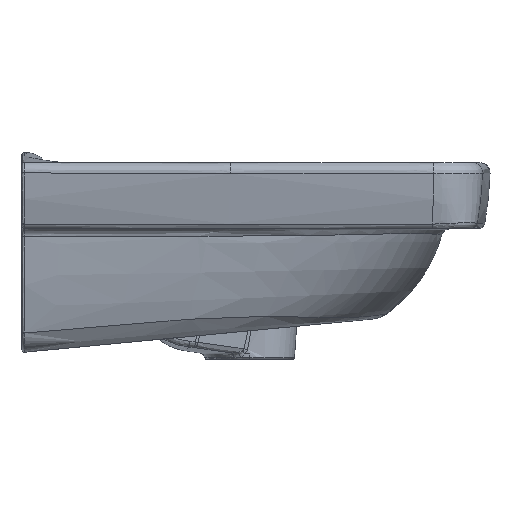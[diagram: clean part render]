
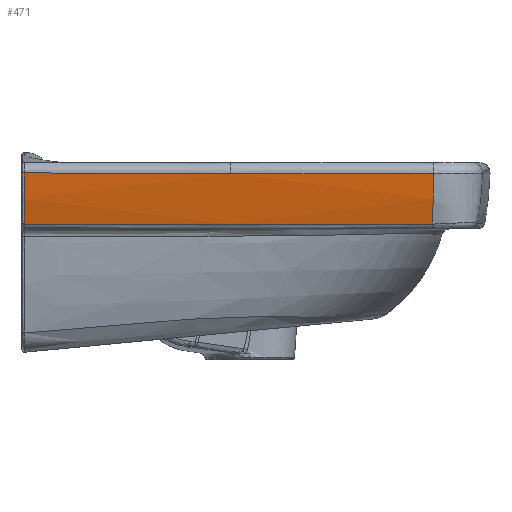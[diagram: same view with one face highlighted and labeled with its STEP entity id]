
A CAD part, left-side view. The second image highlights one B-rep face of the part: STEP entity #471.
In plain terms, the highlighted free-form (B-spline) face has degree [3, 3] with [9, 7] control points.
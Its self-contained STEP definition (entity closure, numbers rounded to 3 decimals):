
#471=ADVANCED_FACE('',(#794),#677,.T.);
#677=B_SPLINE_SURFACE_WITH_KNOTS('',3,3,((#24232,#24233,#24234,#24235,#24236,
#24237,#24238),(#24239,#24240,#24241,#24242,#24243,#24244,#24245),(#24246,
#24247,#24248,#24249,#24250,#24251,#24252),(#24253,#24254,#24255,#24256,
#24257,#24258,#24259),(#24260,#24261,#24262,#24263,#24264,#24265,#24266),
(#24267,#24268,#24269,#24270,#24271,#24272,#24273),(#24274,#24275,#24276,
#24277,#24278,#24279,#24280),(#24281,#24282,#24283,#24284,#24285,#24286,
#24287),(#24288,#24289,#24290,#24291,#24292,#24293,#24294)),
 .UNSPECIFIED.,.F.,.F.,.F.,(4,2,1,2,4),(4,1,1,1,4),(0.,0.386,
0.856,0.937,1.),(0.,0.239,0.295,
0.301,1.),.UNSPECIFIED.);
#794=FACE_OUTER_BOUND('',#1060,.T.);
#1060=EDGE_LOOP('',(#2143,#2144,#2145,#2146,#2147));
#1432=B_SPLINE_CURVE_WITH_KNOTS('',3,(#23829,#23830,#23831,#23832,#23833,
#23834,#23835,#23836,#23837,#23838),.UNSPECIFIED.,.F.,.F.,(4,1,1,1,1,1,
1,4),(0.,0.115,0.277,0.44,0.602,
0.765,0.927,1.),.UNSPECIFIED.);
#1435=B_SPLINE_CURVE_WITH_KNOTS('',3,(#24205,#24206,#24207,#24208),
 .UNSPECIFIED.,.F.,.F.,(4,4),(0.,1.),.UNSPECIFIED.);
#1436=B_SPLINE_CURVE_WITH_KNOTS('',3,(#24211,#24212,#24213,#24214),
 .UNSPECIFIED.,.F.,.F.,(4,4),(0.,1.),.UNSPECIFIED.);
#1437=B_SPLINE_CURVE_WITH_KNOTS('',3,(#24215,#24216,#24217,#24218),
 .UNSPECIFIED.,.F.,.F.,(4,4),(0.,1.),.UNSPECIFIED.);
#1438=B_SPLINE_CURVE_WITH_KNOTS('',3,(#24220,#24221,#24222,#24223,#24224,
#24225,#24226,#24227,#24228,#24229,#24230,#24231),.UNSPECIFIED.,.F.,.F.,
(4,2,2,2,2,4),(0.,0.125,0.25,0.5,0.75,1.),.UNSPECIFIED.);
#2143=ORIENTED_EDGE('',*,*,#3696,.T.);
#2144=ORIENTED_EDGE('',*,*,#3697,.T.);
#2145=ORIENTED_EDGE('',*,*,#3693,.F.);
#2146=ORIENTED_EDGE('',*,*,#3698,.T.);
#2147=ORIENTED_EDGE('',*,*,#3699,.T.);
#3219=VERTEX_POINT('',#23839);
#3220=VERTEX_POINT('',#23840);
#3221=VERTEX_POINT('',#24209);
#3222=VERTEX_POINT('',#24210);
#3223=VERTEX_POINT('',#24219);
#3693=EDGE_CURVE('',#3219,#3220,#1432,.T.);
#3696=EDGE_CURVE('',#3221,#3222,#1435,.T.);
#3697=EDGE_CURVE('',#3222,#3220,#1436,.T.);
#3698=EDGE_CURVE('',#3219,#3223,#1437,.T.);
#3699=EDGE_CURVE('',#3223,#3221,#1438,.T.);
#23829=CARTESIAN_POINT('',(-223.323,-325.419,-8.533));
#23830=CARTESIAN_POINT('',(-223.209,-325.391,-10.086));
#23831=CARTESIAN_POINT('',(-222.902,-325.323,-13.833));
#23832=CARTESIAN_POINT('',(-222.281,-325.213,-19.765));
#23833=CARTESIAN_POINT('',(-221.384,-325.087,-26.314));
#23834=CARTESIAN_POINT('',(-220.247,-324.955,-32.827));
#23835=CARTESIAN_POINT('',(-218.835,-324.817,-39.285));
#23836=CARTESIAN_POINT('',(-217.43,-324.698,-44.49));
#23837=CARTESIAN_POINT('',(-216.486,-324.626,-47.533));
#23838=CARTESIAN_POINT('',(-216.187,-324.603,-48.469));
#23839=CARTESIAN_POINT('',(-223.323,-325.419,-8.533));
#23840=CARTESIAN_POINT('',(-216.187,-324.603,-48.469));
#24205=CARTESIAN_POINT('',(-222.479,-1.75,-8.029));
#24206=CARTESIAN_POINT('',(-221.493,-1.751,-21.733));
#24207=CARTESIAN_POINT('',(-219.482,-1.751,-35.376));
#24208=CARTESIAN_POINT('',(-215.287,-1.753,-48.469));
#24209=CARTESIAN_POINT('',(-222.479,-1.75,-8.029));
#24210=CARTESIAN_POINT('',(-215.287,-1.753,-48.469));
#24211=CARTESIAN_POINT('',(-215.287,-1.753,-48.469));
#24212=CARTESIAN_POINT('',(-218.261,-109.345,-48.47));
#24213=CARTESIAN_POINT('',(-218.566,-216.996,-48.469));
#24214=CARTESIAN_POINT('',(-216.186,-324.603,-48.469));
#24215=CARTESIAN_POINT('',(-223.322,-325.419,-8.533));
#24216=CARTESIAN_POINT('',(-224.511,-271.937,-8.53));
#24217=CARTESIAN_POINT('',(-225.037,-218.45,-8.533));
#24218=CARTESIAN_POINT('',(-224.903,-164.956,-8.532));
#24219=CARTESIAN_POINT('',(-224.903,-164.956,-8.533));
#24220=CARTESIAN_POINT('',(-224.903,-164.956,-8.534));
#24221=CARTESIAN_POINT('',(-224.886,-158.154,-8.532));
#24222=CARTESIAN_POINT('',(-224.852,-151.353,-8.616));
#24223=CARTESIAN_POINT('',(-224.769,-137.75,-8.695));
#24224=CARTESIAN_POINT('',(-224.718,-130.949,-8.726));
#24225=CARTESIAN_POINT('',(-224.533,-110.545,-8.796));
#24226=CARTESIAN_POINT('',(-224.369,-96.943,-8.817));
#24227=CARTESIAN_POINT('',(-223.956,-69.74,-8.863));
#24228=CARTESIAN_POINT('',(-223.704,-56.138,-8.914));
#24229=CARTESIAN_POINT('',(-223.146,-28.941,-8.607));
#24230=CARTESIAN_POINT('',(-222.838,-15.346,-8.256));
#24231=CARTESIAN_POINT('',(-222.479,-1.75,-8.029));
#24232=CARTESIAN_POINT('',(-216.852,168.912,35.798));
#24233=CARTESIAN_POINT('',(-219.011,124.279,35.798));
#24234=CARTESIAN_POINT('',(-221.353,69.148,35.798));
#24235=CARTESIAN_POINT('',(-223.091,12.837,35.798));
#24236=CARTESIAN_POINT('',(-227.1,-129.386,35.798));
#24237=CARTESIAN_POINT('',(-226.803,-261.214,35.798));
#24238=CARTESIAN_POINT('',(-222.569,-391.754,35.798));
#24239=CARTESIAN_POINT('',(-216.852,168.919,23.089));
#24240=CARTESIAN_POINT('',(-219.011,124.285,23.089));
#24241=CARTESIAN_POINT('',(-221.353,69.153,23.089));
#24242=CARTESIAN_POINT('',(-223.091,12.84,23.089));
#24243=CARTESIAN_POINT('',(-227.1,-129.386,23.089));
#24244=CARTESIAN_POINT('',(-226.803,-261.214,23.089));
#24245=CARTESIAN_POINT('',(-222.569,-391.754,23.089));
#24246=CARTESIAN_POINT('',(-216.852,168.927,10.381));
#24247=CARTESIAN_POINT('',(-219.011,124.291,10.381));
#24248=CARTESIAN_POINT('',(-221.353,69.157,10.381));
#24249=CARTESIAN_POINT('',(-223.091,12.843,10.381));
#24250=CARTESIAN_POINT('',(-227.1,-129.386,10.381));
#24251=CARTESIAN_POINT('',(-226.803,-261.214,10.381));
#24252=CARTESIAN_POINT('',(-222.569,-391.754,10.381));
#24253=CARTESIAN_POINT('',(-215.417,168.991,-16.979));
#24254=CARTESIAN_POINT('',(-217.576,124.332,-16.979));
#24255=CARTESIAN_POINT('',(-219.918,69.176,-16.979));
#24256=CARTESIAN_POINT('',(-221.657,12.849,-16.979));
#24257=CARTESIAN_POINT('',(-225.667,-129.405,-16.979));
#24258=CARTESIAN_POINT('',(-225.37,-261.189,-16.979));
#24259=CARTESIAN_POINT('',(-221.136,-391.708,-16.979));
#24260=CARTESIAN_POINT('',(-213.366,169.068,-33.969));
#24261=CARTESIAN_POINT('',(-215.526,124.38,-33.969));
#24262=CARTESIAN_POINT('',(-217.869,69.194,-33.969));
#24263=CARTESIAN_POINT('',(-219.608,12.852,-33.969));
#24264=CARTESIAN_POINT('',(-223.619,-129.432,-33.969));
#24265=CARTESIAN_POINT('',(-223.322,-261.153,-33.969));
#24266=CARTESIAN_POINT('',(-219.089,-391.641,-33.969));
#24267=CARTESIAN_POINT('',(-208.251,169.248,-49.684));
#24268=CARTESIAN_POINT('',(-210.411,124.488,-49.684));
#24269=CARTESIAN_POINT('',(-212.755,69.232,-49.684));
#24270=CARTESIAN_POINT('',(-214.495,12.854,-49.684));
#24271=CARTESIAN_POINT('',(-218.508,-129.499,-49.684));
#24272=CARTESIAN_POINT('',(-218.211,-261.065,-49.684));
#24273=CARTESIAN_POINT('',(-213.981,-391.476,-49.684));
#24274=CARTESIAN_POINT('',(-206.86,169.296,-53.777));
#24275=CARTESIAN_POINT('',(-209.021,124.517,-53.777));
#24276=CARTESIAN_POINT('',(-211.365,69.243,-53.777));
#24277=CARTESIAN_POINT('',(-213.105,12.855,-53.777));
#24278=CARTESIAN_POINT('',(-217.118,-129.517,-53.777));
#24279=CARTESIAN_POINT('',(-216.822,-261.04,-53.777));
#24280=CARTESIAN_POINT('',(-212.592,-391.431,-53.777));
#24281=CARTESIAN_POINT('',(-206.239,169.318,-55.546));
#24282=CARTESIAN_POINT('',(-208.4,124.53,-55.546));
#24283=CARTESIAN_POINT('',(-210.744,69.247,-55.546));
#24284=CARTESIAN_POINT('',(-212.484,12.855,-55.546));
#24285=CARTESIAN_POINT('',(-216.498,-129.525,-55.546));
#24286=CARTESIAN_POINT('',(-216.201,-261.03,-55.546));
#24287=CARTESIAN_POINT('',(-211.972,-391.41,-55.546));
#24288=CARTESIAN_POINT('',(-205.618,169.34,-57.316));
#24289=CARTESIAN_POINT('',(-207.779,124.543,-57.316));
#24290=CARTESIAN_POINT('',(-210.124,69.252,-57.316));
#24291=CARTESIAN_POINT('',(-211.863,12.856,-57.316));
#24292=CARTESIAN_POINT('',(-215.877,-129.533,-57.316));
#24293=CARTESIAN_POINT('',(-215.581,-261.019,-57.316));
#24294=CARTESIAN_POINT('',(-211.352,-391.39,-57.316));
